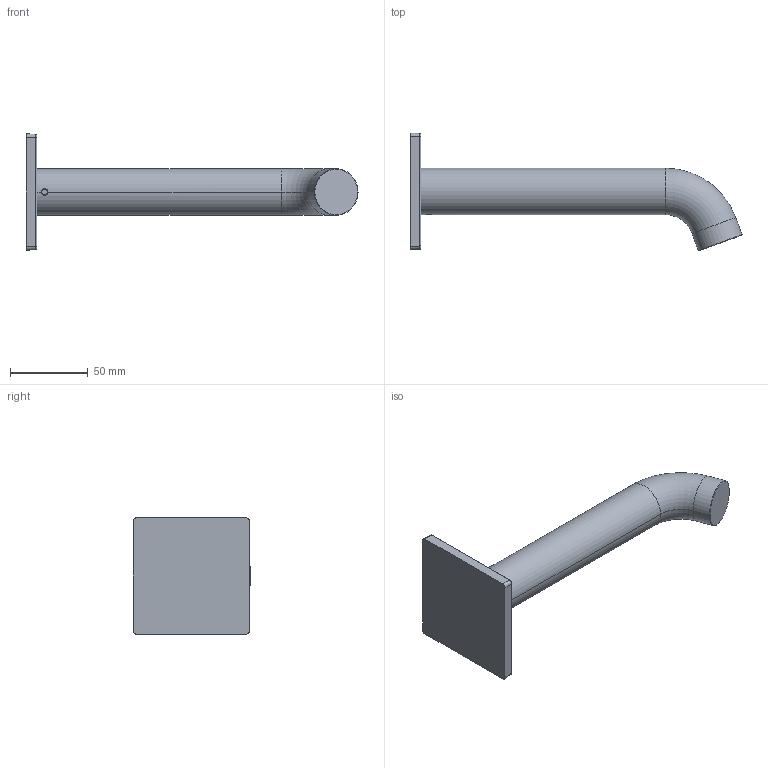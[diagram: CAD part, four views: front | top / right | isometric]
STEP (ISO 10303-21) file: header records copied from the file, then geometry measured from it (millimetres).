
FILE_DESCRIPTION((''),'2;1');
FILE_NAME('26008053','2020-01-09T13:31:38',('LF994'),(''),'CREO PARAMETRIC BY PTC INC, 2018500','CREO PARAMETRIC BY PTC INC, 2018500','');
FILE_SCHEMA(('CONFIG_CONTROL_DESIGN'));
Length unit declared in the file: millimetre
Products named in the file (1): 26008053
Bounding box: 214.19 x 75.86 x 75 mm (x, y, z)
Volume: 187875.1 mm3; surface area: 32989.8 mm2
Topology: 1 solids, 1 shells, 32 faces, 69 edges, 40 vertices
Faces by surface type: cylinder 14, plane 8, bspline 4, torus 4, cone 2
Entity records: 1311 total; most frequent: CARTESIAN_POINT 599, ORIENTED_EDGE 138, DIRECTION 137, EDGE_CURVE 69, AXIS2_PLACEMENT_3D 54, VERTEX_POINT 40, EDGE_LOOP 33, FACE_OUTER_BOUND 32
